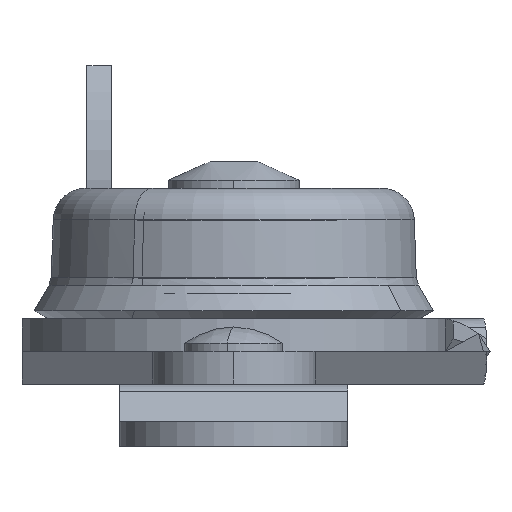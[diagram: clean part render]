
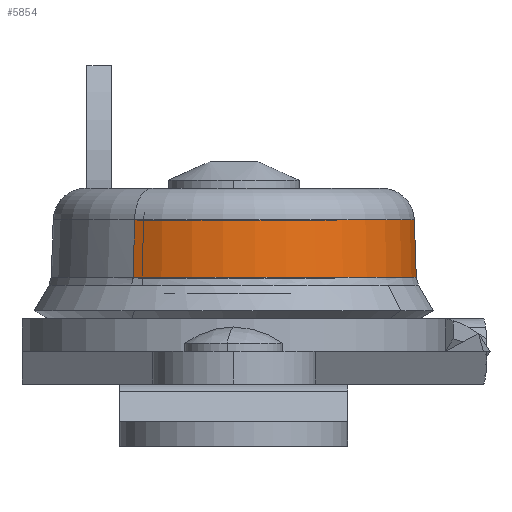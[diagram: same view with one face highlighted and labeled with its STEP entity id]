
A CAD part, left-side view. The second image highlights one B-rep face of the part: STEP entity #5854.
In plain terms, the highlighted conical face has half-angle 2 degrees and reference radius 11.207 mm.
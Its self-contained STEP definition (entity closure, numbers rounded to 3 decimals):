
#10 = FACE_OUTER_BOUND ( 'NONE', #4591, .T. ) ;
#67 = DIRECTION ( 'NONE',  ( 0., 0., 1. ) ) ;
#816 = ORIENTED_EDGE ( 'NONE', *, *, #4799, .T. ) ;
#830 = VERTEX_POINT ( 'NONE', #6982 ) ;
#906 = CARTESIAN_POINT ( 'NONE',  ( 0., 0., -5.464 ) ) ;
#985 = ORIENTED_EDGE ( 'NONE', *, *, #2371, .T. ) ;
#1082 = VERTEX_POINT ( 'NONE', #8660 ) ;
#1121 = CARTESIAN_POINT ( 'NONE',  ( -11.207, 0., -5.464 ) ) ;
#1399 = VERTEX_POINT ( 'NONE', #1731 ) ;
#1649 = DIRECTION ( 'NONE',  ( 1., 0., 0. ) ) ;
#1731 = CARTESIAN_POINT ( 'NONE',  ( 11.206, -0.05, -5.464 ) ) ;
#1939 = CARTESIAN_POINT ( 'NONE',  ( 11.207, 0., -5.464 ) ) ;
#2132 = CIRCLE ( 'NONE', #5062, 11.207 ) ;
#2371 = EDGE_CURVE ( 'NONE', #1399, #9233, #8846, .T. ) ;
#2692 = VECTOR ( 'NONE', #7971, 1000. ) ;
#3535 = CONICAL_SURFACE ( 'NONE', #4999, 11.207, 0.035 ) ;
#4012 = VERTEX_POINT ( 'NONE', #1121 ) ;
#4217 = CARTESIAN_POINT ( 'NONE',  ( -11.207, 0., -5.464 ) ) ;
#4276 = AXIS2_PLACEMENT_3D ( 'NONE', #4622, #67, #5415 ) ;
#4320 = VECTOR ( 'NONE', #4974, 1000. ) ;
#4472 = EDGE_CURVE ( 'NONE', #4012, #1399, #2132, .T. ) ;
#4591 = EDGE_LOOP ( 'NONE', ( #8739, #9481, #816, #8104, #985 ) ) ;
#4622 = CARTESIAN_POINT ( 'NONE',  ( 0., 0., -1.93 ) ) ;
#4633 = DIRECTION ( 'NONE',  ( -1., 0., 0. ) ) ;
#4799 = EDGE_CURVE ( 'NONE', #830, #4012, #7896, .T. ) ;
#4912 = CIRCLE ( 'NONE', #4276, 11.083 ) ;
#4974 = DIRECTION ( 'NONE',  ( -0.035, 0., -0.999 ) ) ;
#4999 = AXIS2_PLACEMENT_3D ( 'NONE', #9166, #8422, #4633 ) ;
#5044 = LINE ( 'NONE', #1939, #2692 ) ;
#5062 = AXIS2_PLACEMENT_3D ( 'NONE', #906, #6255, #1649 ) ;
#5415 = DIRECTION ( 'NONE',  ( 1., 0., 0. ) ) ;
#5577 = EDGE_CURVE ( 'NONE', #1082, #9233, #5044, .T. ) ;
#5854 = ADVANCED_FACE ( 'NONE', ( #10 ), #3535, .T. ) ;
#6132 = EDGE_CURVE ( 'NONE', #830, #1082, #4912, .T. ) ;
#6255 = DIRECTION ( 'NONE',  ( 0., 0., 1. ) ) ;
#6982 = CARTESIAN_POINT ( 'NONE',  ( -11.083, 0., -1.93 ) ) ;
#7105 = CARTESIAN_POINT ( 'NONE',  ( 11.207, 0., -5.464 ) ) ;
#7896 = LINE ( 'NONE', #4217, #4320 ) ;
#7971 = DIRECTION ( 'NONE',  ( 0.035, 0., -0.999 ) ) ;
#8104 = ORIENTED_EDGE ( 'NONE', *, *, #4472, .T. ) ;
#8124 = DIRECTION ( 'NONE',  ( 1., 0., 0. ) ) ;
#8137 = DIRECTION ( 'NONE',  ( 0., 0., 1. ) ) ;
#8154 = CARTESIAN_POINT ( 'NONE',  ( 0., 0., -5.464 ) ) ;
#8422 = DIRECTION ( 'NONE',  ( 0., 0., -1. ) ) ;
#8660 = CARTESIAN_POINT ( 'NONE',  ( 11.083, 0., -1.93 ) ) ;
#8739 = ORIENTED_EDGE ( 'NONE', *, *, #5577, .F. ) ;
#8846 = CIRCLE ( 'NONE', #9799, 11.207 ) ;
#9166 = CARTESIAN_POINT ( 'NONE',  ( 0., 0., -5.464 ) ) ;
#9233 = VERTEX_POINT ( 'NONE', #7105 ) ;
#9481 = ORIENTED_EDGE ( 'NONE', *, *, #6132, .F. ) ;
#9799 = AXIS2_PLACEMENT_3D ( 'NONE', #8154, #8137, #8124 ) ;
